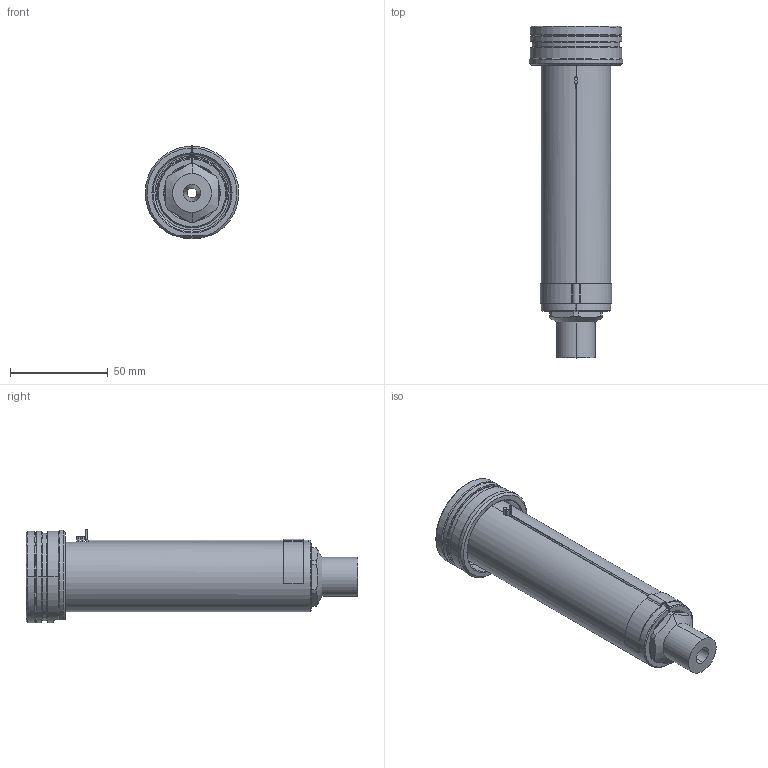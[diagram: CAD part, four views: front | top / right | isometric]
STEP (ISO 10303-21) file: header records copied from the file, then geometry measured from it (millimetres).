
FILE_DESCRIPTION((''),'2;1');
FILE_NAME('EO16_VG-ST_ESG_140_SW','2024-02-19T12:58:09',('sundharh'),(''),'CREO PARAMETRIC BY PTC INC, 2023154','CREO PARAMETRIC BY PTC INC, 2023154','');
FILE_SCHEMA(('CONFIG_CONTROL_DESIGN'));
Length unit declared in the file: millimetre
Products named in the file (1): EO16_VG-ST_ESG_140_SW
Bounding box: 47.97 x 170 x 48 mm (x, y, z)
Volume: 135752.9 mm3; surface area: 34047 mm2
Topology: 1 solids, 1 shells, 169 faces, 418 edges, 256 vertices
Faces by surface type: cylinder 64, plane 45, cone 35, torus 14, bspline 9, sphere 2
Entity records: 5810 total; most frequent: CARTESIAN_POINT 1724, DIRECTION 906, ORIENTED_EDGE 824, EDGE_CURVE 412, AXIS2_PLACEMENT_3D 374, VERTEX_POINT 256, CIRCLE 214, EDGE_LOOP 184
